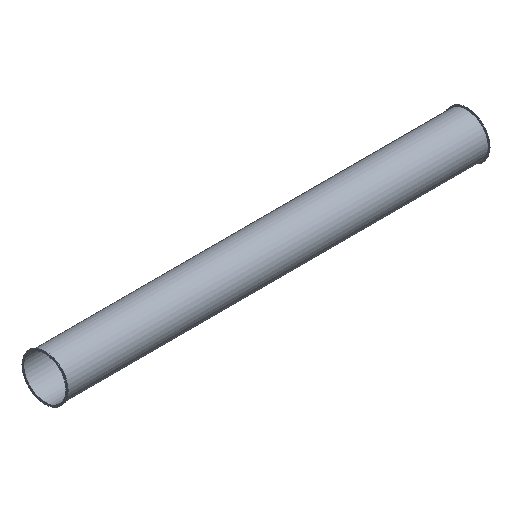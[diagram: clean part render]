
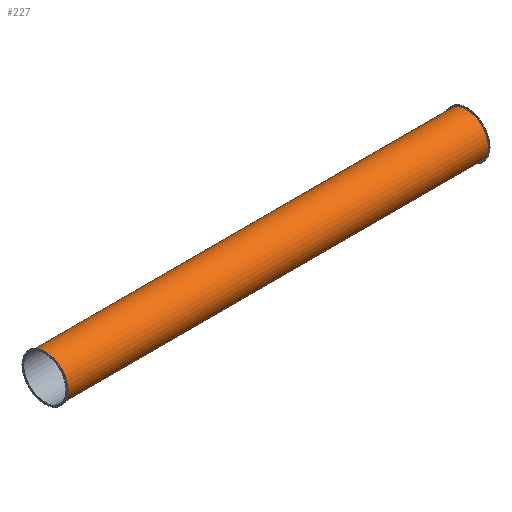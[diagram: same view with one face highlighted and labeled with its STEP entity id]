
A CAD part, isometric view. The second image highlights one B-rep face of the part: STEP entity #227.
In plain terms, the highlighted cylindrical face has radius 101.5 mm (diameter 203 mm), a full revolution.
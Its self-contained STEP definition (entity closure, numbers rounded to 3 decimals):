
#112=CARTESIAN_POINT('',(-31.741,2.915,0.0));
#113=VERTEX_POINT('',#112);
#114=CARTESIAN_POINT('',(-31.741,104.415,0.0));
#115=DIRECTION('',(-1.0,0.0,0.0));
#116=DIRECTION('',(0.0,-1.0,0.0));
#117=AXIS2_PLACEMENT_3D('',#114,#115,#116);
#118=CIRCLE('',#117,101.5);
#119=EDGE_CURVE('',#113,#113,#118,.T.);
#204=CARTESIAN_POINT('',(1950.259,2.915,0.0));
#205=VERTEX_POINT('',#204);
#206=CARTESIAN_POINT('',(1950.259,104.415,0.0));
#207=DIRECTION('',(-1.0,0.0,0.0));
#208=DIRECTION('',(0.0,-1.0,0.0));
#209=AXIS2_PLACEMENT_3D('',#206,#207,#208);
#210=CIRCLE('',#209,101.5);
#211=EDGE_CURVE('',#205,#205,#210,.T.);
#216=CARTESIAN_POINT('',(959.259,104.415,0.0));
#217=DIRECTION('',(-1.0,0.,0.0));
#218=DIRECTION('',(0.0,-1.0,0.0));
#219=AXIS2_PLACEMENT_3D('',#216,#217,#218);
#220=CYLINDRICAL_SURFACE('',#219,101.5);
#221=ORIENTED_EDGE('',*,*,#119,.F.);
#222=EDGE_LOOP('',(#221));
#223=FACE_OUTER_BOUND('',#222,.T.);
#224=ORIENTED_EDGE('',*,*,#211,.T.);
#225=EDGE_LOOP('',(#224));
#226=FACE_BOUND('',#225,.T.);
#227=ADVANCED_FACE('',(#223,#226),#220,.T.);
